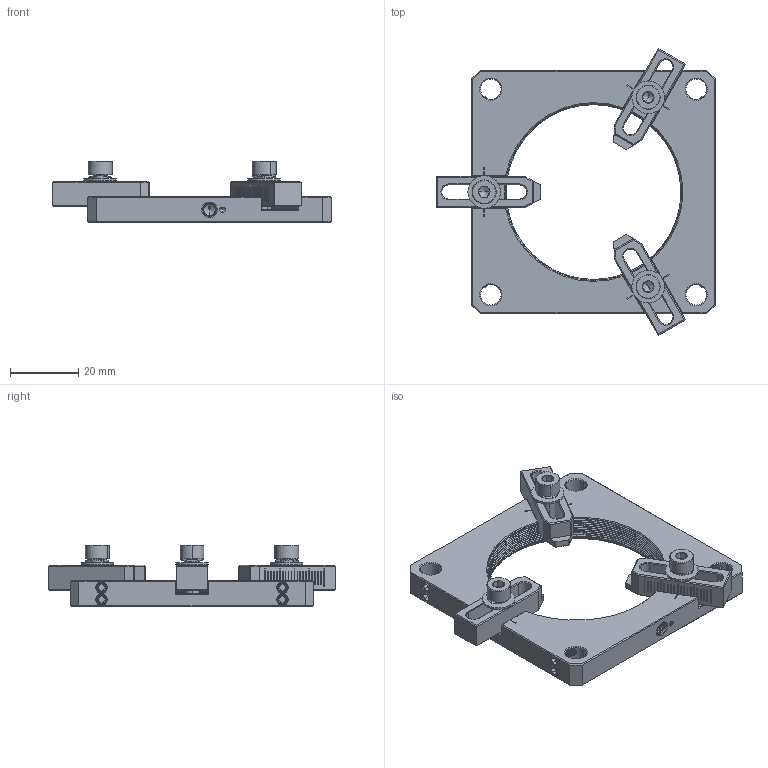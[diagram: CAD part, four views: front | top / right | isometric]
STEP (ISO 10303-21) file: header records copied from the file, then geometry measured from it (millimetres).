
FILE_DESCRIPTION((''),'2;1');
FILE_NAME('CRD-S2X_2_ASM','2021-01-28T',('Administrator'),(''),'CREO PARAMETRIC BY PTC INC, 2015290','CREO PARAMETRIC BY PTC INC, 2015290','');
FILE_SCHEMA(('CONFIG_CONTROL_DESIGN'));
Products named in the file (7): CRD-S2X_A1; M3X4_HS; CRD-S2X_A3; M4X12_HM; SPACER_9X0_7; SPACER_S6X0_2; CRD-S2X_2_ASM
Assembly tree (21 placements, depth 2):
  CRD-S2X_2_ASM
    CRD-S2X_A1
    M3X4_HS  x8
    CRD-S2X_A3  x3
    M4X12_HM  x3
    SPACER_9X0_7  x3
    SPACER_S6X0_2  x3
Bounding box: 81.34 x 83.86 x 18.01 mm (x, y, z)
Volume: 24187.1 mm3; surface area: 16732.3 mm2
Topology: 21 solids, 21 shells, 1564 faces, 3944 edges, 2469 vertices
Faces by surface type: plane 655, cylinder 378, bspline 358, cone 155, torus 12, extrusion 6
Entity records: 89688 total; most frequent: CARTESIAN_POINT 66760, ORIENTED_EDGE 5652, DIRECTION 3077, EDGE_CURVE 2826, VERTEX_POINT 1799, B_SPLINE_CURVE_WITH_KNOTS 1457, VECTOR 1147, LINE 1145
